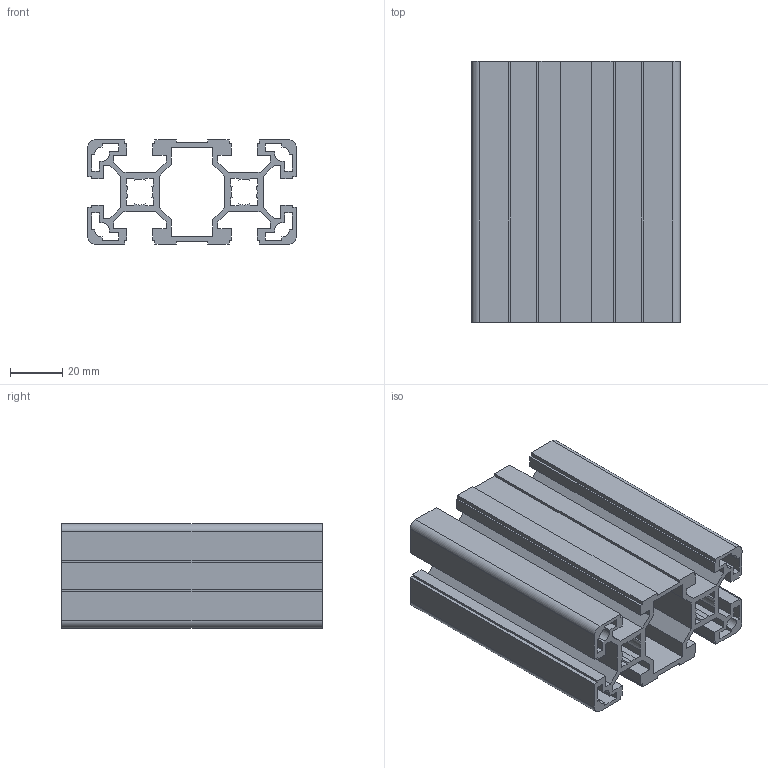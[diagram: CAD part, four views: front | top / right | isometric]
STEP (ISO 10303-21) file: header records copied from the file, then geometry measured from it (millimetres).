
FILE_DESCRIPTION (( 'STEP AP203' ), '1' );
FILE_NAME ('0110P8040L.STEP', '2024-03-04T08:39:44', ( 'Windows-Benutzer' ), ( '' ), 'SwSTEP 2.0', 'SolidWorks 2023', '' );
FILE_SCHEMA (( 'CONFIG_CONTROL_DESIGN' ));
Length unit declared in the file: millimetre
Products named in the file (1): 0110P8040L
Bounding box: 80 x 100 x 40 mm (x, y, z)
Volume: 98169 mm3; surface area: 85827.4 mm2
Topology: 1 solids, 1 shells, 204 faces, 606 edges, 404 vertices
Faces by surface type: plane 182, cylinder 22
Entity records: 6839 total; most frequent: CARTESIAN_POINT 1215, ORIENTED_EDGE 1212, DIRECTION 1060, EDGE_CURVE 606, LINE 562, VECTOR 562, VERTEX_POINT 404, AXIS2_PLACEMENT_3D 249
